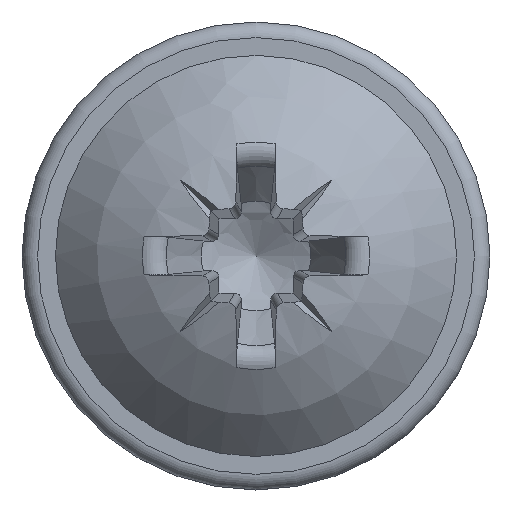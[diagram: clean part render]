
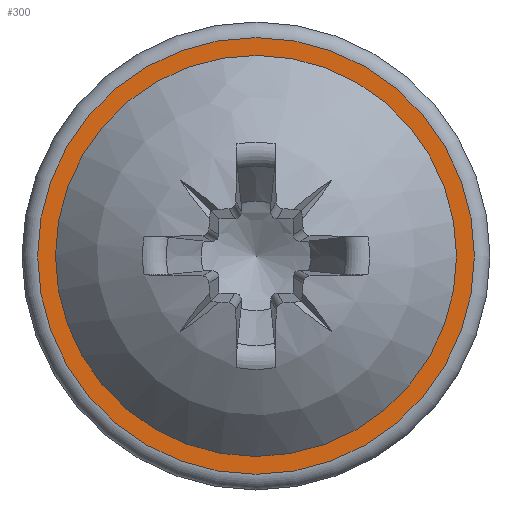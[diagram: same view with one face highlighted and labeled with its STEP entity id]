
A CAD part, top view. The second image highlights one B-rep face of the part: STEP entity #300.
In plain terms, the highlighted planar face has unit normal (0, 0, 1).
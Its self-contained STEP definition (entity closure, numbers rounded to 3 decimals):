
#230=PLANE('',#1687);
#274=FACE_BOUND('',#504,.T.);
#275=FACE_BOUND('',#505,.T.);
#300=ADVANCED_FACE('',(#274,#275),#230,.F.);
#504=EDGE_LOOP('',(#738));
#505=EDGE_LOOP('',(#739));
#602=CIRCLE('',#1645,4.286);
#637=CIRCLE('',#1686,4.667);
#738=ORIENTED_EDGE('',*,*,#1366,.T.);
#739=ORIENTED_EDGE('',*,*,#1317,.F.);
#1162=VERTEX_POINT('',#3629);
#1209=VERTEX_POINT('',#3950);
#1317=EDGE_CURVE('',#1162,#1162,#602,.T.);
#1366=EDGE_CURVE('',#1209,#1209,#637,.T.);
#1645=AXIS2_PLACEMENT_3D('',#3628,#1756,#1757);
#1686=AXIS2_PLACEMENT_3D('',#3949,#1838,#1839);
#1687=AXIS2_PLACEMENT_3D('',#3951,#1840,#1841);
#1756=DIRECTION('',(0.,0.,1.));
#1757=DIRECTION('',(1.,0.,0.));
#1838=DIRECTION('',(0.,0.,1.));
#1839=DIRECTION('',(-1.,0.,0.));
#1840=DIRECTION('',(0.,0.,-1.));
#1841=DIRECTION('',(-1.,0.,0.));
#3628=CARTESIAN_POINT('',(0.,0.,1.1));
#3629=CARTESIAN_POINT('',(4.286,0.,1.1));
#3949=CARTESIAN_POINT('',(0.,0.,1.1));
#3950=CARTESIAN_POINT('',(-4.667,0.,1.1));
#3951=CARTESIAN_POINT('',(0.,5.,1.1));
